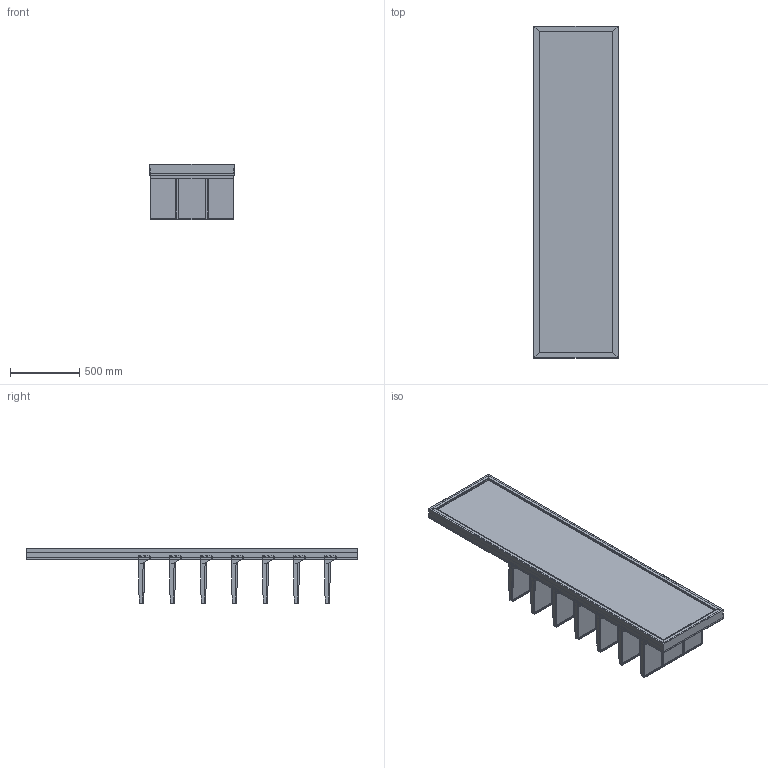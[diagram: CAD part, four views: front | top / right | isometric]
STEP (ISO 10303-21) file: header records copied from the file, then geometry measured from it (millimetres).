
FILE_DESCRIPTION (( 'STEP AP203' ), '1' );
FILE_NAME ('Single Illuminated Cap & Hat Retail Display.STEP', '2026-03-31T14:19:53', ( '' ), ( '' ), 'SwSTEP 2.0', 'SolidWorks 2025', '' );
FILE_SCHEMA (( 'CONFIG_CONTROL_DESIGN' ));
Length unit declared in the file: millimetre
Products named in the file (12): 365-01-02_默认; 365-01-04_默认; 365-01-10_默认; 365-01-05_默认; 365-01-03_默认; 365-01-GA01_2; 365-01-07_默认; 0001-31-GA01 - 610W Slotted Upright; 365-01-06_默认; 365-01-01_默认; 365-01-08_默认; Single Illuminated Cap & Hat Retail Display
Assembly tree (21 placements, depth 3):
  Single Illuminated Cap & Hat Retail Display
    0001-31-GA01 - 610W Slotted Upright
    365-01-GA01_2  x7
      365-01-01_默认
      365-01-02_默认
      365-01-03_默认
      365-01-04_默认
      365-01-05_默认
      365-01-06_默认
      365-01-07_默认
      365-01-08_默认
      365-01-10_默认
Bounding box: 609.75 x 2400 x 403.53 mm (x, y, z)
Volume: 9533723.3 mm3; surface area: 13510295.3 mm2
Topology: 97 solids, 97 shells, 2056 faces, 5528 edges, 3592 vertices
Faces by surface type: plane 1546, cylinder 482, bspline 28
Entity records: 21107 total; most frequent: CARTESIAN_POINT 4015, ORIENTED_EDGE 3502, DIRECTION 2865, EDGE_CURVE 1751, VECTOR 1577, LINE 1577, VERTEX_POINT 1154, AXIS2_PLACEMENT_3D 644
